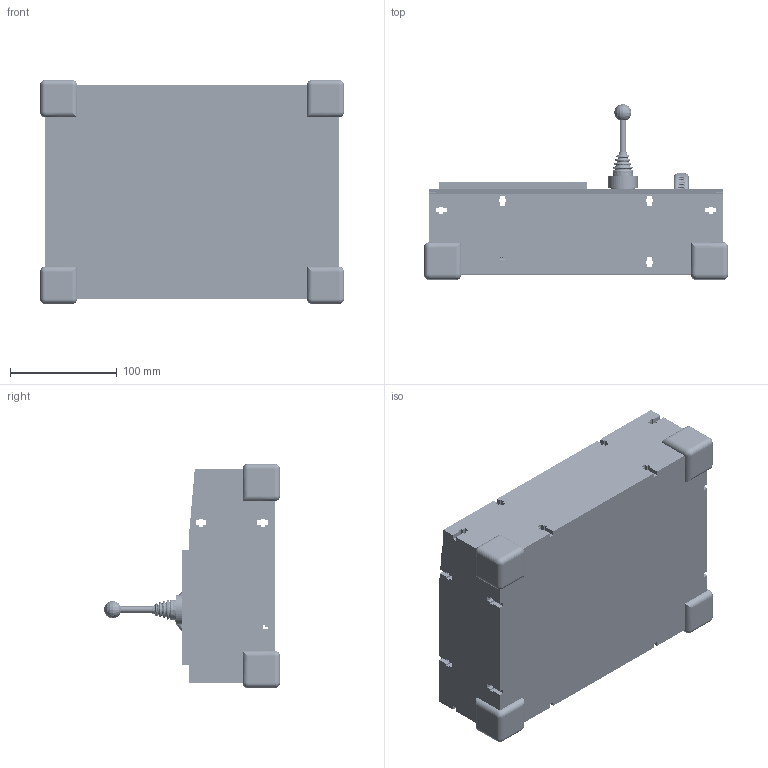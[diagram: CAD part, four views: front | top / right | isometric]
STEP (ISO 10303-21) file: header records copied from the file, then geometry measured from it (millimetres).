
FILE_DESCRIPTION (( 'STEP AP214' ), '1' );
FILE_NAME ('PROTOTYPE1.STEP', '2023-03-02T18:03:07', ( '' ), ( '' ), 'SwSTEP 2.0', 'SolidWorks 2022', '' );
FILE_SCHEMA (( 'AUTOMOTIVE_DESIGN' ));
Length unit declared in the file: millimetre
Products named in the file (21): PROTOTYPE1; Part4^PROTOTYPE1; BUTTON ASSEMBLY; CORNER BRACKET; SCROLL WHEEL MOUNT; TOP FRAME; ARDUINO UNO_Detailed; keycap; BACK FRAME; JOYSTICK ASSEMBLY; ROCKER SWITCH; rotary encoder; USB HUB; SIDE FRAME; ARDUINO BASE; SCROLL WHEEL ASSEMBLY; scroll wheel BIG; key switch
Assembly tree (36 placements, depth 3):
  PROTOTYPE1
    TOP FRAME
    TOP FRAME
    BACK FRAME
    BACK FRAME
    SIDE FRAME
    SIDE FRAME
    JOYSTICK ASSEMBLY
    CORNER BRACKET  x4
    ARDUINO BASE
    BUTTON ASSEMBLY  x10
      keycap
      key switch
    ARDUINO UNO_Detailed
    USB HUB
    SCROLL WHEEL ASSEMBLY
      rotary encoder
      scroll wheel BIG
      SCROLL WHEEL MOUNT
    ROCKER SWITCH  x5
    Part4^PROTOTYPE1
Bounding box: 285 x 164.65 x 210 mm (x, y, z)
Volume: 1245980.9 mm3; surface area: 584866 mm2
Topology: 48 solids, 144 shells, 14405 faces, 40042 edges, 25814 vertices
Faces by surface type: plane 9698, cylinder 3678, bspline 444, torus 364, sphere 133, cone 88
Entity records: 449764 total; most frequent: CARTESIAN_POINT 147775, ORIENTED_EDGE 65614, DIRECTION 40466, EDGE_CURVE 32930, VERTEX_POINT 21308, B_SPLINE_CURVE_WITH_KNOTS 17379, AXIS2_PLACEMENT_3D 13835, VECTOR 12796
